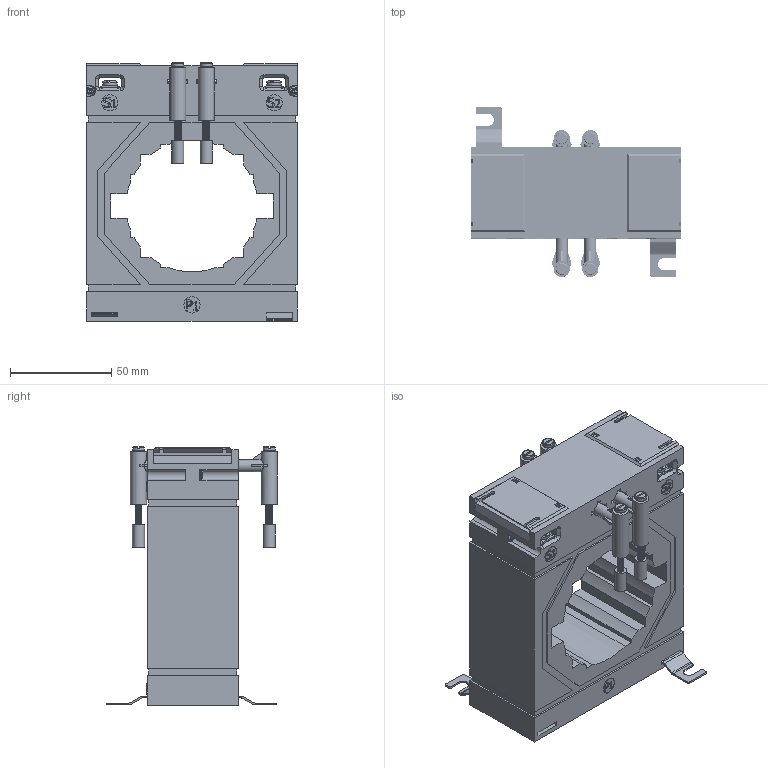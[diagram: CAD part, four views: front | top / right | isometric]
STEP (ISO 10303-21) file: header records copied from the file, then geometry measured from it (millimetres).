
FILE_DESCRIPTION(/* description */ (''),/* implementation_level */ '2;1');
FILE_NAME(/* name */ 'T:\EngMecanica\DESENHOS INVENTOR\Catalogo 2019\Arquivos STEP\KTA 23.stp',/* time_stamp */ '2026-05-20T15:32:43-03:00',/* author */ ('jose.luis'),/* organization */ (''),/* preprocessor_version */ 'ST-DEVELOPER v18.1',/* originating_system */ 'Autodesk Inventor 2021',/* authorisation */ '');
FILE_SCHEMA (('AUTOMOTIVE_DESIGN { 1 0 10303 214 3 1 1 }'));
Products named in the file (21): KTA 23; KTA 23_1; KTA 23_1_1; KTA 23_2; KTA 23_3; KTA 23_4; KTA 23_5; KTA 23_6; KTA 23_7; KTA 23_8; KTA 23_9; KTA 23_10; KTA 23_11; KTA 23_12; KTA 23_13; KTA 23_14; KTA 23_15; KTA 23_16; KBP 52 - Aberto-1_14; KBP 52 - Aberto-1_13; KTA 12
Assembly tree (27 placements, depth 2):
  KTA 23
    KTA 23_1
    KTA 23_1_1
    KTA 23_2
    KTA 23_3
    KTA 23_4
    KTA 23_5
    KTA 23_6
    KTA 23_7
    KTA 23_8
    KTA 23_9
    KTA 23_10
    KTA 23_11
    KTA 23_12
    KTA 23_13
    KTA 23_14
    KTA 23_15
    KTA 23_16
    KBP 52 - Aberto-1_14  x4
    KBP 52 - Aberto-1_13  x4
    KTA 12  x2
Bounding box: 104.03 x 84.09 x 127.39 mm (x, y, z)
Volume: 417313.3 mm3; surface area: 79242.6 mm2
Topology: 27 solids, 27 shells, 1333 faces, 3620 edges, 2372 vertices
Faces by surface type: plane 678, cylinder 482, bspline 111, cone 32, torus 30
Full cylindrical faces by diameter (mm): 2 x2, 2.246 x18, 3.276 x248, 3.9 x36, 4.032 x2, 4.2 x4, 4.294 x4, 5.88 x4, 6 x8, 7 x4, 8 x9
Entity records: 124970 total; most frequent: CARTESIAN_POINT 98879, ORIENTED_EDGE 5770, DIRECTION 4453, EDGE_CURVE 2885, VERTEX_POINT 1902, LINE 1653, VECTOR 1653, AXIS2_PLACEMENT_3D 1400
